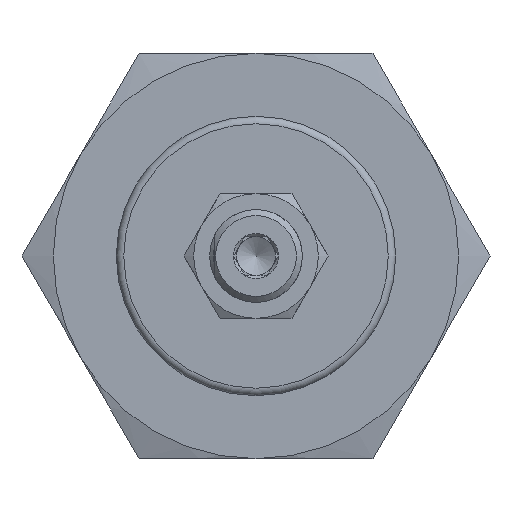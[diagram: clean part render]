
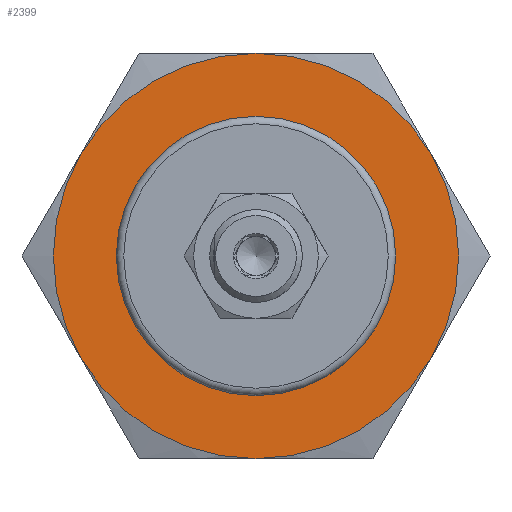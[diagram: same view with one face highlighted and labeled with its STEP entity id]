
A CAD part, left-side view. The second image highlights one B-rep face of the part: STEP entity #2399.
In plain terms, the highlighted planar face has unit normal (-1, 0, 0).
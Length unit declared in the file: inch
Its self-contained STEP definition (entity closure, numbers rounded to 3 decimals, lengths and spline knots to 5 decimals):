
#210=FACE_BOUND('',#824,.T.);
#246=PLANE('',#2733);
#625=FACE_OUTER_BOUND('',#823,.T.);
#823=EDGE_LOOP('',(#2082,#2083,#2084,#2085,#2086,#2087));
#824=EDGE_LOOP('',(#2088));
#918=CIRCLE('',#2555,0.56);
#1007=CIRCLE('',#2734,0.8125);
#1008=CIRCLE('',#2735,0.8125);
#1009=CIRCLE('',#2736,0.8125);
#1010=CIRCLE('',#2737,0.8125);
#1011=CIRCLE('',#2738,0.8125);
#1012=CIRCLE('',#2739,0.8125);
#1086=VERTEX_POINT('',#3779);
#1199=VERTEX_POINT('',#4483);
#1200=VERTEX_POINT('',#4484);
#1201=VERTEX_POINT('',#4486);
#1202=VERTEX_POINT('',#4488);
#1203=VERTEX_POINT('',#4490);
#1204=VERTEX_POINT('',#4492);
#1324=EDGE_CURVE('',#1086,#1086,#918,.T.);
#1504=EDGE_CURVE('',#1199,#1200,#1007,.T.);
#1505=EDGE_CURVE('',#1200,#1201,#1008,.T.);
#1506=EDGE_CURVE('',#1201,#1202,#1009,.T.);
#1507=EDGE_CURVE('',#1202,#1203,#1010,.T.);
#1508=EDGE_CURVE('',#1203,#1204,#1011,.T.);
#1509=EDGE_CURVE('',#1204,#1199,#1012,.T.);
#2082=ORIENTED_EDGE('',*,*,#1504,.T.);
#2083=ORIENTED_EDGE('',*,*,#1505,.T.);
#2084=ORIENTED_EDGE('',*,*,#1506,.T.);
#2085=ORIENTED_EDGE('',*,*,#1507,.T.);
#2086=ORIENTED_EDGE('',*,*,#1508,.T.);
#2087=ORIENTED_EDGE('',*,*,#1509,.T.);
#2088=ORIENTED_EDGE('',*,*,#1324,.T.);
#2399=ADVANCED_FACE('',(#625,#210),#246,.T.);
#2555=AXIS2_PLACEMENT_3D('',#3780,#2989,#2990);
#2733=AXIS2_PLACEMENT_3D('',#4482,#3398,#3399);
#2734=AXIS2_PLACEMENT_3D('',#4485,#3400,#3401);
#2735=AXIS2_PLACEMENT_3D('',#4487,#3402,#3403);
#2736=AXIS2_PLACEMENT_3D('',#4489,#3404,#3405);
#2737=AXIS2_PLACEMENT_3D('',#4491,#3406,#3407);
#2738=AXIS2_PLACEMENT_3D('',#4493,#3408,#3409);
#2739=AXIS2_PLACEMENT_3D('',#4494,#3410,#3411);
#2989=DIRECTION('center_axis',(1.,0.,0.));
#2990=DIRECTION('ref_axis',(0.,1.,0.));
#3398=DIRECTION('center_axis',(-1.,0.,0.));
#3399=DIRECTION('ref_axis',(0.,0.,1.));
#3400=DIRECTION('center_axis',(-1.,0.,0.));
#3401=DIRECTION('ref_axis',(0.,0.,1.));
#3402=DIRECTION('center_axis',(-1.,0.,0.));
#3403=DIRECTION('ref_axis',(0.,0.,1.));
#3404=DIRECTION('center_axis',(-1.,0.,0.));
#3405=DIRECTION('ref_axis',(0.,0.,1.));
#3406=DIRECTION('center_axis',(-1.,0.,0.));
#3407=DIRECTION('ref_axis',(0.,0.,1.));
#3408=DIRECTION('center_axis',(-1.,0.,0.));
#3409=DIRECTION('ref_axis',(0.,0.,1.));
#3410=DIRECTION('center_axis',(-1.,0.,0.));
#3411=DIRECTION('ref_axis',(0.,0.,1.));
#3779=CARTESIAN_POINT('',(-0.5,-0.56,0.));
#3780=CARTESIAN_POINT('Origin',(-0.5,0.,0.));
#4482=CARTESIAN_POINT('Origin',(-0.5,0.,0.));
#4483=CARTESIAN_POINT('',(-0.5,0.70365,-0.40625));
#4484=CARTESIAN_POINT('',(-0.5,0.,-0.8125));
#4485=CARTESIAN_POINT('Origin',(-0.5,0.,0.));
#4486=CARTESIAN_POINT('',(-0.5,-0.70365,-0.40625));
#4487=CARTESIAN_POINT('Origin',(-0.5,0.,0.));
#4488=CARTESIAN_POINT('',(-0.5,-0.70365,0.40625));
#4489=CARTESIAN_POINT('Origin',(-0.5,0.,0.));
#4490=CARTESIAN_POINT('',(-0.5,0.,0.8125));
#4491=CARTESIAN_POINT('Origin',(-0.5,0.,0.));
#4492=CARTESIAN_POINT('',(-0.5,0.70365,0.40625));
#4493=CARTESIAN_POINT('Origin',(-0.5,0.,0.));
#4494=CARTESIAN_POINT('Origin',(-0.5,0.,0.));
